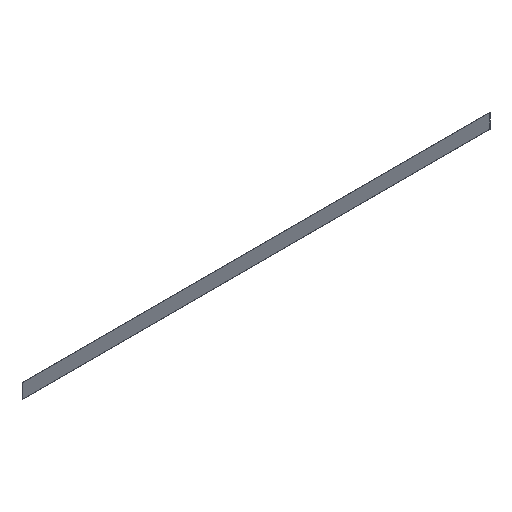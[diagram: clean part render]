
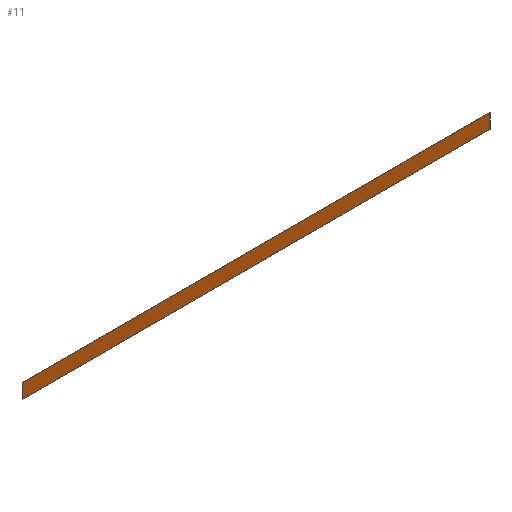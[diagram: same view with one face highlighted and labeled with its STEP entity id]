
A CAD part, isometric view. The second image highlights one B-rep face of the part: STEP entity #11.
In plain terms, the highlighted planar face has unit normal (0, -1, 0).
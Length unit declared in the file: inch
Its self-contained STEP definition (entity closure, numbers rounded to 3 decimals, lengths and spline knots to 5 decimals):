
#4 = VECTOR ( 'NONE', #112, 39.37008 ) ;
#5 = VERTEX_POINT ( 'NONE', #10 ) ;
#10 = CARTESIAN_POINT ( 'NONE',  ( 8., 0., 0.25 ) ) ;
#11 = ADVANCED_FACE ( 'NONE', ( #188 ), #23, .T. ) ;
#13 = CARTESIAN_POINT ( 'NONE',  ( 0., 0., 0. ) ) ;
#17 = DIRECTION ( 'NONE',  ( -1., 0., 0. ) ) ;
#23 = PLANE ( 'NONE',  #170 ) ;
#31 = CARTESIAN_POINT ( 'NONE',  ( 8., 0., 0.25 ) ) ;
#35 = VECTOR ( 'NONE', #17, 39.37008 ) ;
#37 = VECTOR ( 'NONE', #146, 39.37008 ) ;
#44 = VECTOR ( 'NONE', #193, 39.37008 ) ;
#50 = VERTEX_POINT ( 'NONE', #122 ) ;
#51 = LINE ( 'NONE', #132, #44 ) ;
#71 = DIRECTION ( 'NONE',  ( 0., 0., -1. ) ) ;
#72 = CARTESIAN_POINT ( 'NONE',  ( -8., 0., 0.25 ) ) ;
#74 = CARTESIAN_POINT ( 'NONE',  ( -8., 0., -0.25 ) ) ;
#78 = ORIENTED_EDGE ( 'NONE', *, *, #145, .F. ) ;
#106 = ORIENTED_EDGE ( 'NONE', *, *, #128, .F. ) ;
#112 = DIRECTION ( 'NONE',  ( 0., 0., -1. ) ) ;
#118 = ORIENTED_EDGE ( 'NONE', *, *, #163, .F. ) ;
#119 = EDGE_LOOP ( 'NONE', ( #78, #172, #106, #118 ) ) ;
#122 = CARTESIAN_POINT ( 'NONE',  ( 8., 0., -0.25 ) ) ;
#125 = DIRECTION ( 'NONE',  ( 0., -1., 0. ) ) ;
#128 = EDGE_CURVE ( 'NONE', #156, #183, #51, .T. ) ;
#129 = LINE ( 'NONE', #31, #4 ) ;
#132 = CARTESIAN_POINT ( 'NONE',  ( -8., 0., 0.25 ) ) ;
#133 = CARTESIAN_POINT ( 'NONE',  ( -8., 0., -0.25 ) ) ;
#145 = EDGE_CURVE ( 'NONE', #5, #50, #129, .T. ) ;
#146 = DIRECTION ( 'NONE',  ( 1., 0., 0. ) ) ;
#147 = LINE ( 'NONE', #74, #35 ) ;
#149 = LINE ( 'NONE', #177, #37 ) ;
#156 = VERTEX_POINT ( 'NONE', #133 ) ;
#163 = EDGE_CURVE ( 'NONE', #50, #156, #147, .T. ) ;
#170 = AXIS2_PLACEMENT_3D ( 'NONE', #13, #125, #71 ) ;
#172 = ORIENTED_EDGE ( 'NONE', *, *, #184, .F. ) ;
#177 = CARTESIAN_POINT ( 'NONE',  ( -8., 0., 0.25 ) ) ;
#183 = VERTEX_POINT ( 'NONE', #72 ) ;
#184 = EDGE_CURVE ( 'NONE', #183, #5, #149, .T. ) ;
#188 = FACE_OUTER_BOUND ( 'NONE', #119, .T. ) ;
#193 = DIRECTION ( 'NONE',  ( 0., 0., 1. ) ) ;
